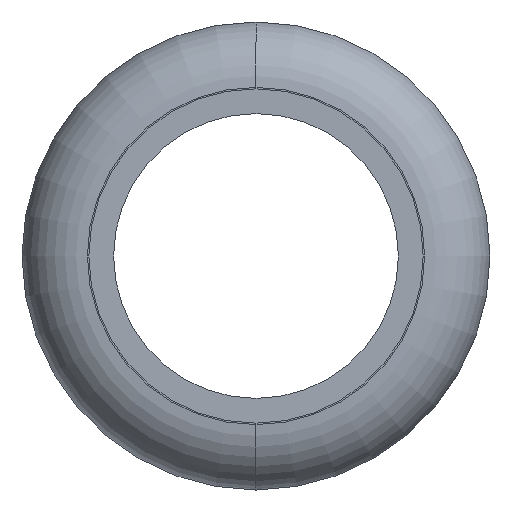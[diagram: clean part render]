
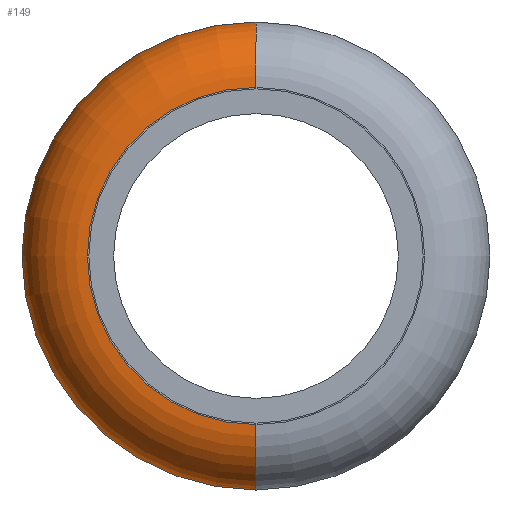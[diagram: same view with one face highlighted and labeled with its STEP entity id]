
A CAD part, left-side view. The second image highlights one B-rep face of the part: STEP entity #149.
In plain terms, the highlighted toroidal (fillet/blend) face has major radius 5.8 mm and minor radius 2.25 mm.
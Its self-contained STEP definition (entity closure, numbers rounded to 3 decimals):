
#149=ADVANCED_FACE('',(#334),#335,.T.);
#334=FACE_OUTER_BOUND('',#570,.T.);
#335=TOROIDAL_SURFACE('',#571,5.8,2.25);
#570=EDGE_LOOP('',(#935,#936,#937,#938));
#571=AXIS2_PLACEMENT_3D('',#939,#940,#941);
#935=ORIENTED_EDGE('',*,*,#1329,.T.);
#936=ORIENTED_EDGE('',*,*,#1395,.F.);
#937=ORIENTED_EDGE('',*,*,#1396,.F.);
#938=ORIENTED_EDGE('',*,*,#1397,.F.);
#939=CARTESIAN_POINT('',(6.5,0.0,0.));
#940=DIRECTION('',(-1.0,0.0,0.));
#941=DIRECTION('',(0.,0.0,1.0));
#1329=EDGE_CURVE('',#1528,#1527,#1572,.T.);
#1395=EDGE_CURVE('',#1674,#1527,#1675,.T.);
#1396=EDGE_CURVE('',#1676,#1674,#1677,.T.);
#1397=EDGE_CURVE('',#1528,#1676,#1678,.T.);
#1527=VERTEX_POINT('',#1826);
#1528=VERTEX_POINT('',#1827);
#1572=CIRCLE('',#1871,8.05);
#1674=VERTEX_POINT('',#1987);
#1675=CIRCLE('',#1988,2.25);
#1676=VERTEX_POINT('',#1989);
#1677=CIRCLE('',#1990,5.8);
#1678=CIRCLE('',#1991,2.25);
#1826=CARTESIAN_POINT('',(6.5,0.,-8.05));
#1827=CARTESIAN_POINT('',(6.5,0.,8.05));
#1871=AXIS2_PLACEMENT_3D('',#2222,#2223,#2224);
#1987=CARTESIAN_POINT('',(4.25,0.,-5.8));
#1988=AXIS2_PLACEMENT_3D('',#2344,#2345,#2346);
#1989=CARTESIAN_POINT('',(4.25,0.,5.8));
#1990=AXIS2_PLACEMENT_3D('',#2347,#2348,#2349);
#1991=AXIS2_PLACEMENT_3D('',#2350,#2351,#2352);
#2222=CARTESIAN_POINT('',(6.5,0.0,0.));
#2223=DIRECTION('',(-1.0,0.0,0.));
#2224=DIRECTION('',(0.,0.0,1.0));
#2344=CARTESIAN_POINT('',(6.5,0.,-5.8));
#2345=DIRECTION('',(0.,-1.0,0.));
#2346=DIRECTION('',(0.,0.,-1.0));
#2347=CARTESIAN_POINT('',(4.25,0.0,0.));
#2348=DIRECTION('',(-1.0,0.0,0.));
#2349=DIRECTION('',(0.,0.0,-1.0));
#2350=CARTESIAN_POINT('',(6.5,0.,5.8));
#2351=DIRECTION('',(0.,-1.0,0.));
#2352=DIRECTION('',(0.,0.,1.0));
